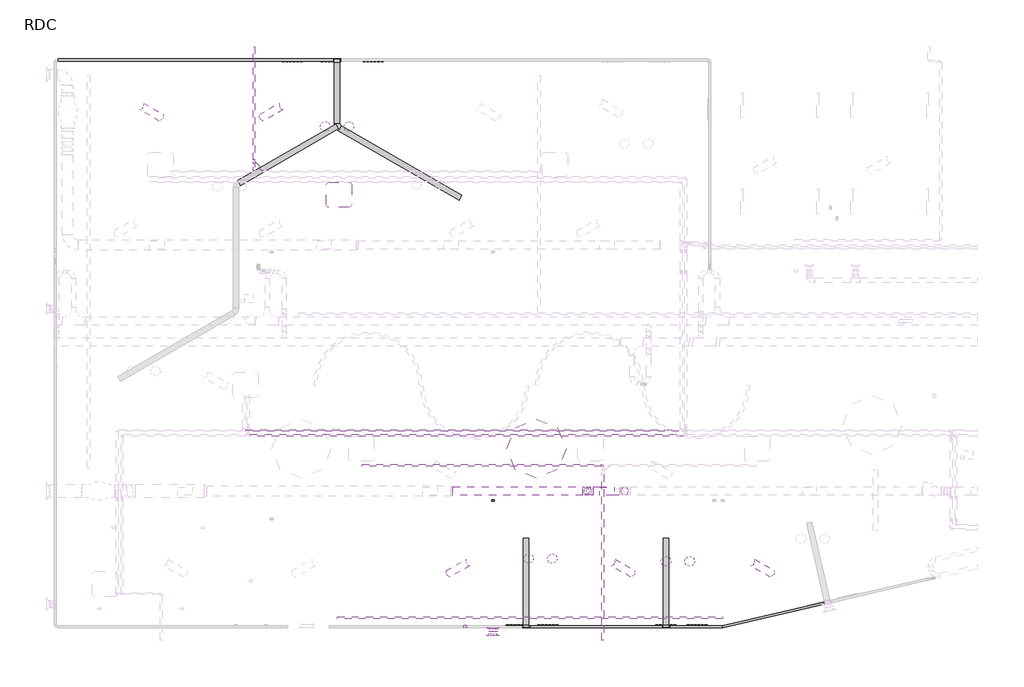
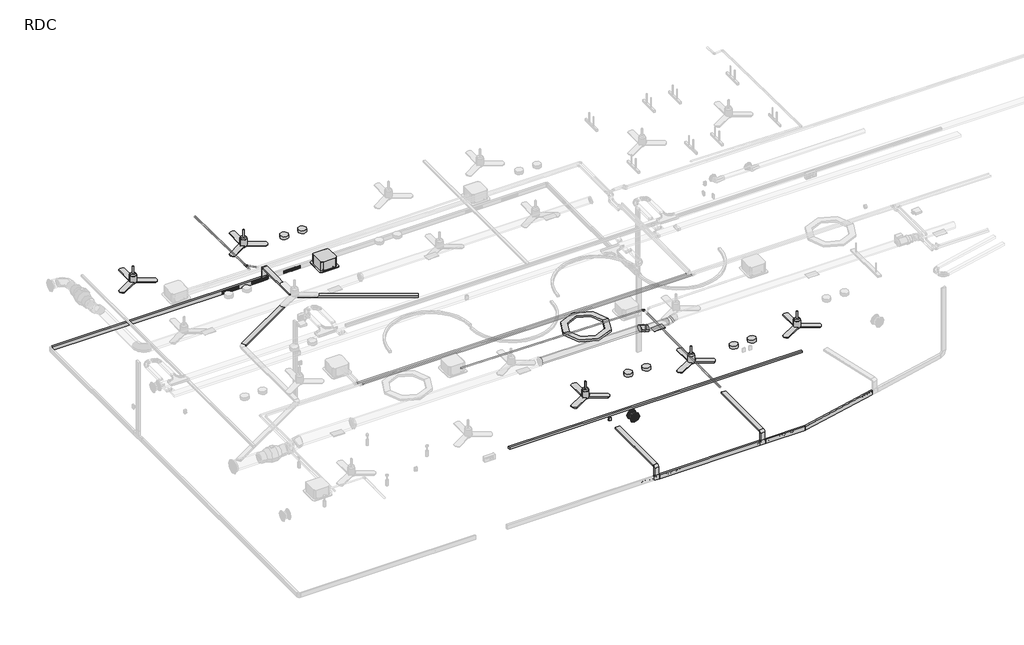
# One storey, part 4 of 15: 50 proxies, 17 duct segments, 10 duct fittings, 8 light fixtures, 7 pipe segments, 3 air terminals, 2 pipe fittings.
"""IFC4 building model written with IfcOpenShell, lengths in millimetres."""

from ifc_helpers import new_model, si_unit, point, frame, frame_2d, origin, place, context, project, spatial, polyline, circle_curve, trimmed, segment, composite_curve, outline, extrude, transform, mapped, element, save
from components import air_terminal_8fbfe4fd, air_terminal_300x150_ce1732d7, electrical_fixtures_f93b5bb2, electrical_fixtures_7208e772, security_devices_b28b6cb9, electrical_fixtures_3a4acf06, mechanical_equipment_4a9d14a3, cassette_600x600_07ba985d, coude_circulaire_1_d_01b5a2fb, coude_rectangulaire_rayon_1_w_45743452, coude_rectangulaire_rayon_1_w_07da5d97, coude_rectangulaire_rayon_1_w_6ce379fa, coude_rectangulaire_rayon_1_w_36dd7708, coude_rectangulaire_rayon_1_w_c2cb62bf, standard_70f4f62f, light_fixture_2e635b03, ai_luminaire_concept_s_angle_915ad789, ai_luminaire_spot_downlight_a3_0014797d, standard_4aeb689a, standard_fa75ec68

model = new_model("IFC4")

# Units and contexts
model_context = context("Model", 3, world=origin())
ifc_project = project(units=[si_unit("LENGTHUNIT", "METRE", prefix="MILLI")], contexts=[model_context])

# Site, building, storey
site = spatial("IfcSite", under=ifc_project)
building = spatial("IfcBuilding", under=site)
storey = spatial("IfcBuildingStorey", under=building, Name="RDC", Elevation=0.0)

# Air terminals
placement = place(None, origin())
air_terminal_shape = air_terminal_8fbfe4fd(model_context)
element("IfcAirTerminal", 1, ObjectType="AI_Bouche aération_Circulaire Soufflage : ø200 mm", at=placement, inside=storey, context=model_context, shape_type="MappedRepresentation", body=[
    mapped(air_terminal_shape, transform((16773.1551019, 939.7998736, 2675.0), x_axis=(1.0, 0.0, 0.0), y_axis=(0.0, 0.0, -1.0), z_axis=(0.0, 1.0, 0.0))),
])
element("IfcAirTerminal", 2, ObjectType="AI_Bouche aération_Circulaire Extraction : ø200 mm", at=placement, inside=storey, context=model_context, shape_type="MappedRepresentation", body=[
    mapped(air_terminal_shape, transform((16773.1551016, 1119.7998718, 2675.0), x_axis=(0.0, 0.0, 1.0), y_axis=(-1.0, 0.0, 0.0), z_axis=(0.0, -1.0, 0.0))),
])
air_terminal_300x150_shape = air_terminal_300x150_ce1732d7(model_context)
element("IfcAirTerminal", 3, ObjectType="AI_Bouche aération_Grille de soufflage rectangulaire sur gaine : 300x150", at=placement, inside=storey, context=model_context, shape_type="MappedRepresentation", body=[
    mapped(air_terminal_300x150_shape, transform((19474.9639686, 4361.9215834, 2620.0), x_axis=(0.0, 1.0, 0.0), y_axis=(-1.0, 0.0, 0.0), z_axis=(0.0, 0.0, 1.0))),
])

# Proxies
electrical_fixtures_shape = electrical_fixtures_f93b5bb2(model_context)
element("IfcBuildingElementProxy", 4, Name="AI_Instal elec_Prise RJ45 : RJ 45 Murale", ObjectType="AI_Instal elec_Prise RJ45 : RJ 45 Murale", at=placement, inside=storey, context=model_context, shape_type="MappedRepresentation", body=[
    mapped(electrical_fixtures_shape, transform((14055.489218, 14569.3027103, 300.0), x_axis=(-1.0, 0.0, 0.0), y_axis=(0.0, -1.0, 0.0), z_axis=(0.0, 0.0, 1.0))),
])
element("IfcBuildingElementProxy", 5, Name="AI_Instal elec_Prise RJ45 : RJ 45 Murale", ObjectType="AI_Instal elec_Prise RJ45 : RJ 45 Murale", at=placement, inside=storey, context=model_context, shape_type="MappedRepresentation", body=[
    mapped(electrical_fixtures_shape, transform((14140.489218, 14569.3027103, 300.0), x_axis=(-1.0, 0.0, 0.0), y_axis=(0.0, -1.0, 0.0), z_axis=(0.0, 0.0, 1.0))),
])
element("IfcBuildingElementProxy", 6, Name="AI_Instal elec_Prise RJ45 : RJ 45 Murale", ObjectType="AI_Instal elec_Prise RJ45 : RJ 45 Murale", at=placement, inside=storey, context=model_context, shape_type="MappedRepresentation", body=[
    mapped(electrical_fixtures_shape, transform((12135.489218, 14569.3027103, 300.0), x_axis=(-1.0, 0.0, 0.0), y_axis=(0.0, -1.0, 0.0), z_axis=(0.0, 0.0, 1.0))),
])
element("IfcBuildingElementProxy", 7, Name="AI_Instal elec_Prise RJ45 : RJ 45 Murale", ObjectType="AI_Instal elec_Prise RJ45 : RJ 45 Murale", at=placement, inside=storey, context=model_context, shape_type="MappedRepresentation", body=[
    mapped(electrical_fixtures_shape, transform((12220.489218, 14569.3027103, 300.0), x_axis=(-1.0, 0.0, 0.0), y_axis=(0.0, -1.0, 0.0), z_axis=(0.0, 0.0, 1.0))),
])
element("IfcBuildingElementProxy", 8, Name="AI_Instal elec_Prise RJ45 : RJ 45 Murale", ObjectType="AI_Instal elec_Prise RJ45 : RJ 45 Murale", at=placement, inside=storey, context=model_context, shape_type="MappedRepresentation", body=[
    mapped(electrical_fixtures_shape, transform((13055.489218, 14569.3027103, 300.0), x_axis=(-1.0, 0.0, 0.0), y_axis=(0.0, -1.0, 0.0), z_axis=(0.0, 0.0, 1.0))),
])
element("IfcBuildingElementProxy", 9, Name="AI_Instal elec_Prise RJ45 : RJ 45 Murale", ObjectType="AI_Instal elec_Prise RJ45 : RJ 45 Murale", at=placement, inside=storey, context=model_context, shape_type="MappedRepresentation", body=[
    mapped(electrical_fixtures_shape, transform((13140.489218, 14569.3027103, 300.0), x_axis=(-1.0, 0.0, 0.0), y_axis=(0.0, -1.0, 0.0), z_axis=(0.0, 0.0, 1.0))),
])
element("IfcBuildingElementProxy", 10, Name="AI_Instal elec_Prise RJ45 : RJ 45 Murale", ObjectType="AI_Instal elec_Prise RJ45 : RJ 45 Murale", at=placement, inside=storey, context=model_context, shape_type="MappedRepresentation", body=[
    mapped(electrical_fixtures_shape, transform((17947.4639686, 1170.0660246, 300.0), x_axis=(1.0, 0.0, 0.0), y_axis=(0.0, 1.0, 0.0), z_axis=(0.0, 0.0, 1.0))),
])
element("IfcBuildingElementProxy", 11, Name="AI_Instal elec_Prise RJ45 : RJ 45 Murale", ObjectType="AI_Instal elec_Prise RJ45 : RJ 45 Murale", at=placement, inside=storey, context=model_context, shape_type="MappedRepresentation", body=[
    mapped(electrical_fixtures_shape, transform((17862.4639686, 1170.0660246, 300.0), x_axis=(1.0, 0.0, 0.0), y_axis=(0.0, 1.0, 0.0), z_axis=(0.0, 0.0, 1.0))),
])
element("IfcBuildingElementProxy", 12, Name="AI_Instal elec_Prise RJ45 : RJ 45 Murale", ObjectType="AI_Instal elec_Prise RJ45 : RJ 45 Murale", at=placement, inside=storey, context=model_context, shape_type="MappedRepresentation", body=[
    mapped(electrical_fixtures_shape, transform((17207.4639686, 1170.0660246, 300.0), x_axis=(1.0, 0.0, 0.0), y_axis=(0.0, 1.0, 0.0), z_axis=(0.0, 0.0, 1.0))),
])
element("IfcBuildingElementProxy", 13, Name="AI_Instal elec_Prise RJ45 : RJ 45 Murale", ObjectType="AI_Instal elec_Prise RJ45 : RJ 45 Murale", at=placement, inside=storey, context=model_context, shape_type="MappedRepresentation", body=[
    mapped(electrical_fixtures_shape, transform((17122.4639686, 1170.0660246, 300.0), x_axis=(1.0, 0.0, 0.0), y_axis=(0.0, 1.0, 0.0), z_axis=(0.0, 0.0, 1.0))),
])
element("IfcBuildingElementProxy", 14, Name="AI_Instal elec_Prise RJ45 : RJ 45 Murale", ObjectType="AI_Instal elec_Prise RJ45 : RJ 45 Murale", at=placement, inside=storey, context=model_context, shape_type="MappedRepresentation", body=[
    mapped(electrical_fixtures_shape, transform((21487.4639686, 1170.0660246, 300.0), x_axis=(1.0, 0.0, 0.0), y_axis=(0.0, 1.0, 0.0), z_axis=(0.0, 0.0, 1.0))),
])
element("IfcBuildingElementProxy", 15, Name="AI_Instal elec_Prise RJ45 : RJ 45 Murale", ObjectType="AI_Instal elec_Prise RJ45 : RJ 45 Murale", at=placement, inside=storey, context=model_context, shape_type="MappedRepresentation", body=[
    mapped(electrical_fixtures_shape, transform((21402.4639686, 1170.0660246, 300.0), x_axis=(1.0, 0.0, 0.0), y_axis=(0.0, 1.0, 0.0), z_axis=(0.0, 0.0, 1.0))),
])
element("IfcBuildingElementProxy", 16, Name="AI_Instal elec_Prise RJ45 : RJ 45 Murale", ObjectType="AI_Instal elec_Prise RJ45 : RJ 45 Murale", at=placement, inside=storey, context=model_context, shape_type="MappedRepresentation", body=[
    mapped(electrical_fixtures_shape, transform((20747.4639686, 1170.0660246, 300.0), x_axis=(1.0, 0.0, 0.0), y_axis=(0.0, 1.0, 0.0), z_axis=(0.0, 0.0, 1.0))),
])
element("IfcBuildingElementProxy", 17, Name="AI_Instal elec_Prise RJ45 : RJ 45 Murale", ObjectType="AI_Instal elec_Prise RJ45 : RJ 45 Murale", at=placement, inside=storey, context=model_context, shape_type="MappedRepresentation", body=[
    mapped(electrical_fixtures_shape, transform((20662.4639686, 1170.0660246, 300.0), x_axis=(1.0, 0.0, 0.0), y_axis=(0.0, 1.0, 0.0), z_axis=(0.0, 0.0, 1.0))),
])
electrical_fixtures_2_shape = electrical_fixtures_7208e772(model_context)
element("IfcBuildingElementProxy", 18, Name="AI_Instal elec_PC 16A +T à 0,30m : PC 16A +T à 0,30m", ObjectType="AI_Instal elec_PC 16A +T à 0,30m : PC 16A +T à 0,30m", at=placement, inside=storey, context=model_context, shape_type="MappedRepresentation", body=[
    mapped(electrical_fixtures_2_shape, transform((13715.489218, 14569.3027103, 300.0), x_axis=(-1.0, 0.0, 0.0), y_axis=(0.0, -1.0, 0.0), z_axis=(0.0, 0.0, 1.0))),
])
element("IfcBuildingElementProxy", 19, Name="AI_Instal elec_PC 16A +T à 0,30m : PC 16A +T à 0,30m", ObjectType="AI_Instal elec_PC 16A +T à 0,30m : PC 16A +T à 0,30m", at=placement, inside=storey, context=model_context, shape_type="MappedRepresentation", body=[
    mapped(electrical_fixtures_2_shape, transform((13800.489218, 14569.3027103, 300.0), x_axis=(-1.0, 0.0, 0.0), y_axis=(0.0, -1.0, 0.0), z_axis=(0.0, 0.0, 1.0))),
])
element("IfcBuildingElementProxy", 20, Name="AI_Instal elec_PC 16A +T à 0,30m : PC 16A +T à 0,30m", ObjectType="AI_Instal elec_PC 16A +T à 0,30m : PC 16A +T à 0,30m", at=placement, inside=storey, context=model_context, shape_type="MappedRepresentation", body=[
    mapped(electrical_fixtures_2_shape, transform((11795.489218, 14569.3027103, 300.0), x_axis=(-1.0, 0.0, 0.0), y_axis=(0.0, -1.0, 0.0), z_axis=(0.0, 0.0, 1.0))),
])
element("IfcBuildingElementProxy", 21, Name="AI_Instal elec_PC 16A +T à 0,30m : PC 16A +T à 0,30m", ObjectType="AI_Instal elec_PC 16A +T à 0,30m : PC 16A +T à 0,30m", at=placement, inside=storey, context=model_context, shape_type="MappedRepresentation", body=[
    mapped(electrical_fixtures_2_shape, transform((11880.489218, 14569.3027103, 300.0), x_axis=(-1.0, 0.0, 0.0), y_axis=(0.0, -1.0, 0.0), z_axis=(0.0, 0.0, 1.0))),
])
element("IfcBuildingElementProxy", 22, Name="AI_Instal elec_PC 16A +T à 0,30m : PC 16A +T à 0,30m", ObjectType="AI_Instal elec_PC 16A +T à 0,30m : PC 16A +T à 0,30m", at=placement, inside=storey, context=model_context, shape_type="MappedRepresentation", body=[
    mapped(electrical_fixtures_2_shape, transform((12715.489218, 14569.3027103, 300.0), x_axis=(-1.0, 0.0, 0.0), y_axis=(0.0, -1.0, 0.0), z_axis=(0.0, 0.0, 1.0))),
])
element("IfcBuildingElementProxy", 23, Name="AI_Instal elec_PC 16A +T à 0,30m : PC 16A +T à 0,30m", ObjectType="AI_Instal elec_PC 16A +T à 0,30m : PC 16A +T à 0,30m", at=placement, inside=storey, context=model_context, shape_type="MappedRepresentation", body=[
    mapped(electrical_fixtures_2_shape, transform((12800.489218, 14569.3027103, 300.0), x_axis=(-1.0, 0.0, 0.0), y_axis=(0.0, -1.0, 0.0), z_axis=(0.0, 0.0, 1.0))),
])
element("IfcBuildingElementProxy", 24, Name="AI_Instal elec_PC 16A +T à 0,30m : PC 16A +T à 0,30m", ObjectType="AI_Instal elec_PC 16A +T à 0,30m : PC 16A +T à 0,30m", at=placement, inside=storey, context=model_context, shape_type="MappedRepresentation", body=[
    mapped(electrical_fixtures_2_shape, transform((18287.4639686, 1170.0660246, 300.0), x_axis=(1.0, 0.0, 0.0), y_axis=(0.0, 1.0, 0.0), z_axis=(0.0, 0.0, 1.0))),
])
element("IfcBuildingElementProxy", 25, Name="AI_Instal elec_PC 16A +T à 0,30m : PC 16A +T à 0,30m", ObjectType="AI_Instal elec_PC 16A +T à 0,30m : PC 16A +T à 0,30m", at=placement, inside=storey, context=model_context, shape_type="MappedRepresentation", body=[
    mapped(electrical_fixtures_2_shape, transform((18202.4639686, 1170.0660246, 300.0), x_axis=(1.0, 0.0, 0.0), y_axis=(0.0, 1.0, 0.0), z_axis=(0.0, 0.0, 1.0))),
])
element("IfcBuildingElementProxy", 26, Name="AI_Instal elec_PC 16A +T à 0,30m : PC 16A +T à 0,30m", ObjectType="AI_Instal elec_PC 16A +T à 0,30m : PC 16A +T à 0,30m", at=placement, inside=storey, context=model_context, shape_type="MappedRepresentation", body=[
    mapped(electrical_fixtures_2_shape, transform((17547.4639686, 1170.0660246, 300.0), x_axis=(1.0, 0.0, 0.0), y_axis=(0.0, 1.0, 0.0), z_axis=(0.0, 0.0, 1.0))),
])
element("IfcBuildingElementProxy", 27, Name="AI_Instal elec_PC 16A +T à 0,30m : PC 16A +T à 0,30m", ObjectType="AI_Instal elec_PC 16A +T à 0,30m : PC 16A +T à 0,30m", at=placement, inside=storey, context=model_context, shape_type="MappedRepresentation", body=[
    mapped(electrical_fixtures_2_shape, transform((17462.4639686, 1170.0660246, 300.0), x_axis=(1.0, 0.0, 0.0), y_axis=(0.0, 1.0, 0.0), z_axis=(0.0, 0.0, 1.0))),
])
element("IfcBuildingElementProxy", 28, Name="AI_Instal elec_PC 16A +T à 0,30m : PC 16A +T à 0,30m", ObjectType="AI_Instal elec_PC 16A +T à 0,30m : PC 16A +T à 0,30m", at=placement, inside=storey, context=model_context, shape_type="MappedRepresentation", body=[
    mapped(electrical_fixtures_2_shape, transform((21827.4639686, 1170.0660246, 300.0), x_axis=(1.0, 0.0, 0.0), y_axis=(0.0, 1.0, 0.0), z_axis=(0.0, 0.0, 1.0))),
])
element("IfcBuildingElementProxy", 29, Name="AI_Instal elec_PC 16A +T à 0,30m : PC 16A +T à 0,30m", ObjectType="AI_Instal elec_PC 16A +T à 0,30m : PC 16A +T à 0,30m", at=placement, inside=storey, context=model_context, shape_type="MappedRepresentation", body=[
    mapped(electrical_fixtures_2_shape, transform((21742.4639686, 1170.0660246, 300.0), x_axis=(1.0, 0.0, 0.0), y_axis=(0.0, 1.0, 0.0), z_axis=(0.0, 0.0, 1.0))),
])
element("IfcBuildingElementProxy", 30, Name="AI_Instal elec_PC 16A +T à 0,30m : PC 16A +T à 0,30m", ObjectType="AI_Instal elec_PC 16A +T à 0,30m : PC 16A +T à 0,30m", at=placement, inside=storey, context=model_context, shape_type="MappedRepresentation", body=[
    mapped(electrical_fixtures_2_shape, transform((21087.4639686, 1170.0660246, 300.0), x_axis=(1.0, 0.0, 0.0), y_axis=(0.0, 1.0, 0.0), z_axis=(0.0, 0.0, 1.0))),
])
element("IfcBuildingElementProxy", 31, Name="AI_Instal elec_PC 16A +T à 0,30m : PC 16A +T à 0,30m", ObjectType="AI_Instal elec_PC 16A +T à 0,30m : PC 16A +T à 0,30m", at=placement, inside=storey, context=model_context, shape_type="MappedRepresentation", body=[
    mapped(electrical_fixtures_2_shape, transform((21002.4639686, 1170.0660246, 300.0), x_axis=(1.0, 0.0, 0.0), y_axis=(0.0, 1.0, 0.0), z_axis=(0.0, 0.0, 1.0))),
])
element("IfcBuildingElementProxy", 32, Name="AI_Instal elec_Prise de courant 2P+T 16A ondulée : AI_Instal elec_Prise de courant 2P+T 16A ondulée", ObjectType="AI_Instal elec_Prise de courant 2P+T 16A ondulée : AI_Instal elec_Prise de courant 2P+T 16A ondulée", at=placement, inside=storey, context=model_context, shape_type="MappedRepresentation", body=[
    mapped(electrical_fixtures_2_shape, transform((13885.489218, 14569.3027103, 300.0), x_axis=(-1.0, 0.0, 0.0), y_axis=(0.0, -1.0, 0.0), z_axis=(0.0, 0.0, 1.0))),
])
element("IfcBuildingElementProxy", 33, Name="AI_Instal elec_Prise de courant 2P+T 16A ondulée : AI_Instal elec_Prise de courant 2P+T 16A ondulée", ObjectType="AI_Instal elec_Prise de courant 2P+T 16A ondulée : AI_Instal elec_Prise de courant 2P+T 16A ondulée", at=placement, inside=storey, context=model_context, shape_type="MappedRepresentation", body=[
    mapped(electrical_fixtures_2_shape, transform((13970.489218, 14569.3027103, 300.0), x_axis=(-1.0, 0.0, 0.0), y_axis=(0.0, -1.0, 0.0), z_axis=(0.0, 0.0, 1.0))),
])
element("IfcBuildingElementProxy", 34, Name="AI_Instal elec_Prise de courant 2P+T 16A ondulée : AI_Instal elec_Prise de courant 2P+T 16A ondulée", ObjectType="AI_Instal elec_Prise de courant 2P+T 16A ondulée : AI_Instal elec_Prise de courant 2P+T 16A ondulée", at=placement, inside=storey, context=model_context, shape_type="MappedRepresentation", body=[
    mapped(electrical_fixtures_2_shape, transform((11965.489218, 14569.3027103, 300.0), x_axis=(-1.0, 0.0, 0.0), y_axis=(0.0, -1.0, 0.0), z_axis=(0.0, 0.0, 1.0))),
])
element("IfcBuildingElementProxy", 35, Name="AI_Instal elec_Prise de courant 2P+T 16A ondulée : AI_Instal elec_Prise de courant 2P+T 16A ondulée", ObjectType="AI_Instal elec_Prise de courant 2P+T 16A ondulée : AI_Instal elec_Prise de courant 2P+T 16A ondulée", at=placement, inside=storey, context=model_context, shape_type="MappedRepresentation", body=[
    mapped(electrical_fixtures_2_shape, transform((12050.489218, 14569.3027103, 300.0), x_axis=(-1.0, 0.0, 0.0), y_axis=(0.0, -1.0, 0.0), z_axis=(0.0, 0.0, 1.0))),
])
element("IfcBuildingElementProxy", 36, Name="AI_Instal elec_Prise de courant 2P+T 16A ondulée : AI_Instal elec_Prise de courant 2P+T 16A ondulée", ObjectType="AI_Instal elec_Prise de courant 2P+T 16A ondulée : AI_Instal elec_Prise de courant 2P+T 16A ondulée", at=placement, inside=storey, context=model_context, shape_type="MappedRepresentation", body=[
    mapped(electrical_fixtures_2_shape, transform((12885.489218, 14569.3027103, 300.0), x_axis=(-1.0, 0.0, 0.0), y_axis=(0.0, -1.0, 0.0), z_axis=(0.0, 0.0, 1.0))),
])
element("IfcBuildingElementProxy", 37, Name="AI_Instal elec_Prise de courant 2P+T 16A ondulée : AI_Instal elec_Prise de courant 2P+T 16A ondulée", ObjectType="AI_Instal elec_Prise de courant 2P+T 16A ondulée : AI_Instal elec_Prise de courant 2P+T 16A ondulée", at=placement, inside=storey, context=model_context, shape_type="MappedRepresentation", body=[
    mapped(electrical_fixtures_2_shape, transform((12970.489218, 14569.3027103, 300.0), x_axis=(-1.0, 0.0, 0.0), y_axis=(0.0, -1.0, 0.0), z_axis=(0.0, 0.0, 1.0))),
])
element("IfcBuildingElementProxy", 38, Name="AI_Instal elec_Prise de courant 2P+T 16A ondulée : AI_Instal elec_Prise de courant 2P+T 16A ondulée", ObjectType="AI_Instal elec_Prise de courant 2P+T 16A ondulée : AI_Instal elec_Prise de courant 2P+T 16A ondulée", at=placement, inside=storey, context=model_context, shape_type="MappedRepresentation", body=[
    mapped(electrical_fixtures_2_shape, transform((18117.4639686, 1170.0660246, 300.0), x_axis=(1.0, 0.0, 0.0), y_axis=(0.0, 1.0, 0.0), z_axis=(0.0, 0.0, 1.0))),
])
element("IfcBuildingElementProxy", 39, Name="AI_Instal elec_Prise de courant 2P+T 16A ondulée : AI_Instal elec_Prise de courant 2P+T 16A ondulée", ObjectType="AI_Instal elec_Prise de courant 2P+T 16A ondulée : AI_Instal elec_Prise de courant 2P+T 16A ondulée", at=placement, inside=storey, context=model_context, shape_type="MappedRepresentation", body=[
    mapped(electrical_fixtures_2_shape, transform((18032.4639686, 1170.0660246, 300.0), x_axis=(1.0, 0.0, 0.0), y_axis=(0.0, 1.0, 0.0), z_axis=(0.0, 0.0, 1.0))),
])
element("IfcBuildingElementProxy", 40, Name="AI_Instal elec_Prise de courant 2P+T 16A ondulée : AI_Instal elec_Prise de courant 2P+T 16A ondulée", ObjectType="AI_Instal elec_Prise de courant 2P+T 16A ondulée : AI_Instal elec_Prise de courant 2P+T 16A ondulée", at=placement, inside=storey, context=model_context, shape_type="MappedRepresentation", body=[
    mapped(electrical_fixtures_2_shape, transform((17377.4639686, 1170.0660246, 300.0), x_axis=(1.0, 0.0, 0.0), y_axis=(0.0, 1.0, 0.0), z_axis=(0.0, 0.0, 1.0))),
])
element("IfcBuildingElementProxy", 41, Name="AI_Instal elec_Prise de courant 2P+T 16A ondulée : AI_Instal elec_Prise de courant 2P+T 16A ondulée", ObjectType="AI_Instal elec_Prise de courant 2P+T 16A ondulée : AI_Instal elec_Prise de courant 2P+T 16A ondulée", at=placement, inside=storey, context=model_context, shape_type="MappedRepresentation", body=[
    mapped(electrical_fixtures_2_shape, transform((17292.4639686, 1170.0660246, 300.0), x_axis=(1.0, 0.0, 0.0), y_axis=(0.0, 1.0, 0.0), z_axis=(0.0, 0.0, 1.0))),
])
element("IfcBuildingElementProxy", 42, Name="AI_Instal elec_Prise de courant 2P+T 16A ondulée : AI_Instal elec_Prise de courant 2P+T 16A ondulée", ObjectType="AI_Instal elec_Prise de courant 2P+T 16A ondulée : AI_Instal elec_Prise de courant 2P+T 16A ondulée", at=placement, inside=storey, context=model_context, shape_type="MappedRepresentation", body=[
    mapped(electrical_fixtures_2_shape, transform((21657.4639686, 1170.0660246, 300.0), x_axis=(1.0, 0.0, 0.0), y_axis=(0.0, 1.0, 0.0), z_axis=(0.0, 0.0, 1.0))),
])
element("IfcBuildingElementProxy", 43, Name="AI_Instal elec_Prise de courant 2P+T 16A ondulée : AI_Instal elec_Prise de courant 2P+T 16A ondulée", ObjectType="AI_Instal elec_Prise de courant 2P+T 16A ondulée : AI_Instal elec_Prise de courant 2P+T 16A ondulée", at=placement, inside=storey, context=model_context, shape_type="MappedRepresentation", body=[
    mapped(electrical_fixtures_2_shape, transform((21572.4639686, 1170.0660246, 300.0), x_axis=(1.0, 0.0, 0.0), y_axis=(0.0, 1.0, 0.0), z_axis=(0.0, 0.0, 1.0))),
])
element("IfcBuildingElementProxy", 44, Name="AI_Instal elec_Prise de courant 2P+T 16A ondulée : AI_Instal elec_Prise de courant 2P+T 16A ondulée", ObjectType="AI_Instal elec_Prise de courant 2P+T 16A ondulée : AI_Instal elec_Prise de courant 2P+T 16A ondulée", at=placement, inside=storey, context=model_context, shape_type="MappedRepresentation", body=[
    mapped(electrical_fixtures_2_shape, transform((20917.4639686, 1170.0660246, 300.0), x_axis=(1.0, 0.0, 0.0), y_axis=(0.0, 1.0, 0.0), z_axis=(0.0, 0.0, 1.0))),
])
element("IfcBuildingElementProxy", 45, Name="AI_Instal elec_Prise de courant 2P+T 16A ondulée : AI_Instal elec_Prise de courant 2P+T 16A ondulée", ObjectType="AI_Instal elec_Prise de courant 2P+T 16A ondulée : AI_Instal elec_Prise de courant 2P+T 16A ondulée", at=placement, inside=storey, context=model_context, shape_type="MappedRepresentation", body=[
    mapped(electrical_fixtures_2_shape, transform((20832.4639686, 1170.0660246, 300.0), x_axis=(1.0, 0.0, 0.0), y_axis=(0.0, 1.0, 0.0), z_axis=(0.0, 0.0, 1.0))),
])
security_devices_shape = security_devices_b28b6cb9(model_context)
element("IfcBuildingElementProxy", 46, Name="AI_Disp secu_Détecteur volumétrique : Presence Detector - 70 x 100 x 70", ObjectType="AI_Disp secu_Détecteur volumétrique : Presence Detector - 70 x 100 x 70", at=placement, inside=storey, context=model_context, shape_type="MappedRepresentation", body=[
    mapped(security_devices_shape, transform((16109.9864137, 1120.1533804, 2685.7684954), x_axis=(-0.9999999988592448, -4.776515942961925e-05, 0.0), y_axis=(4.776515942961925e-05, -0.9999999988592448, 0.0), z_axis=(0.0, 0.0, 1.0))),
])
electrical_fixtures_3_shape = electrical_fixtures_3a4acf06(model_context)
element("IfcBuildingElementProxy", 47, Name="AI_Instal elec_Brasseur d'air : AI_Instal elec_Brasseur d'air", ObjectType="AI_Instal elec_Brasseur d'air : AI_Instal elec_Brasseur d'air", at=placement, inside=storey, context=model_context, shape_type="MappedRepresentation", body=[
    mapped(electrical_fixtures_3_shape, transform((11815.489218, 13534.6884314, 2500.0), x_axis=(1.0, 0.0, 0.0), y_axis=(0.0, 1.0, 0.0), z_axis=(0.0, 0.0, 1.0))),
])
element("IfcBuildingElementProxy", 48, Name="AI_Instal elec_Brasseur d'air : AI_Instal elec_Brasseur d'air", ObjectType="AI_Instal elec_Brasseur d'air : AI_Instal elec_Brasseur d'air", at=placement, inside=storey, context=model_context, shape_type="MappedRepresentation", body=[
    mapped(electrical_fixtures_3_shape, transform((8363.1634071, 13534.6884314, 2500.0), x_axis=(1.0, 0.0, 0.0), y_axis=(0.0, 1.0, 0.0), z_axis=(0.0, 0.0, 1.0))),
])
element("IfcBuildingElementProxy", 49, Name="AI_Instal elec_Brasseur d'air : AI_Instal elec_Brasseur d'air", ObjectType="AI_Instal elec_Brasseur d'air : AI_Instal elec_Brasseur d'air", at=placement, inside=storey, context=model_context, shape_type="MappedRepresentation", body=[
    mapped(electrical_fixtures_3_shape, transform((16248.3666269, 2709.4764678, 2500.0), x_axis=(1.0, 0.0, 0.0), y_axis=(0.0, 1.0, 0.0), z_axis=(0.0, 0.0, 1.0))),
])
element("IfcBuildingElementProxy", 50, Name="AI_Instal elec_Brasseur d'air : AI_Instal elec_Brasseur d'air", ObjectType="AI_Instal elec_Brasseur d'air : AI_Instal elec_Brasseur d'air", at=placement, inside=storey, context=model_context, shape_type="MappedRepresentation", body=[
    mapped(electrical_fixtures_3_shape, transform((19553.3666269, 2709.4764678, 2500.0), x_axis=(1.0, 0.0, 0.0), y_axis=(0.0, 1.0, 0.0), z_axis=(0.0, 0.0, 1.0))),
])
element("IfcBuildingElementProxy", 51, Name="AI_Instal elec_Brasseur d'air : AI_Instal elec_Brasseur d'air", ObjectType="AI_Instal elec_Brasseur d'air : AI_Instal elec_Brasseur d'air", at=placement, inside=storey, context=model_context, shape_type="MappedRepresentation", body=[
    mapped(electrical_fixtures_3_shape, transform((22863.3666269, 2709.4764678, 2500.0), x_axis=(1.0, 0.0, 0.0), y_axis=(0.0, 1.0, 0.0), z_axis=(0.0, 0.0, 1.0))),
])
mechanical_equipment_shape = mechanical_equipment_4a9d14a3(model_context)
element("IfcBuildingElementProxy", 52, Name="AI_Eqpmt genie clim_Commande murale Clim : Commande murale Clim", ObjectType="AI_Eqpmt genie clim_Commande murale Clim : Commande murale Clim", at=placement, inside=storey, context=model_context, shape_type="MappedRepresentation", body=[
    mapped(mechanical_equipment_shape, transform((16772.913704, 4119.3027165, 1130.0), x_axis=(1.0, 0.0, 0.0), y_axis=(0.0, 1.0, 0.0), z_axis=(0.0, 0.0, 1.0))),
])
cassette_600x600_shape = cassette_600x600_07ba985d(model_context)
element("IfcBuildingElementProxy", 53, Name="AI_Eqpmt genie clim_Cassette plafonnière : Cassette 600x600", ObjectType="AI_Eqpmt genie clim_Cassette plafonnière : Cassette 600x600", at=placement, inside=storey, context=model_context, shape_type="MappedRepresentation", body=[
    mapped(cassette_600x600_shape, transform((12247.9564704, 12184.3368143, 2680.0), x_axis=(1.0, 0.0, 0.0), y_axis=(0.0, 1.0, 0.0), z_axis=(0.0, 0.0, 1.0))),
])

# Duct fittings
coude_circulaire_1_d_shape = coude_circulaire_1_d_01b5a2fb(model_context)
element("IfcDuctFitting", 54, ObjectType="Coude circulaire : 1 D", at=placement, inside=storey, context=model_context, shape_type="MappedRepresentation", body=[
    mapped(coude_circulaire_1_d_shape, transform((18956.2024532, 4361.9215834, 2800.0), x_axis=(1.0, 0.0, 0.0), y_axis=(0.0, 0.0, -1.0), z_axis=(0.0, 1.0, 0.0))),
])
element("IfcDuctFitting", 55, ObjectType="Coude circulaire : 1 D", at=placement, inside=storey, context=model_context, shape_type="MappedRepresentation", body=[
    mapped(coude_circulaire_1_d_shape, transform((19094.7665179, 4361.9215834, 2720.0), x_axis=(0.8660254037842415, 0.0, -0.5000000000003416), y_axis=(0.5000000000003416, 0.0, 0.8660254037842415), z_axis=(0.0, -1.0, 0.0))),
])
coude_rectangulaire_rayon_1_w_shape = coude_rectangulaire_rayon_1_w_45743452(model_context)
element("IfcDuctFitting", 56, ObjectType="Coude rectangulaire - Rayon : 1 W", at=placement, inside=storey, context=model_context, shape_type="MappedRepresentation", body=[
    mapped(coude_rectangulaire_rayon_1_w_shape, transform((13071.4318355, 14594.3027103, 676.7942343), x_axis=(0.0, 1.0, 0.0), y_axis=(0.0, 0.0, -1.0), z_axis=(-1.0, 0.0, 0.0))),
])
coude_rectangulaire_rayon_1_w_2_shape = coude_rectangulaire_rayon_1_w_07da5d97(model_context)
element("IfcDuctFitting", 57, ObjectType="Coude rectangulaire - Rayon : 1 W", at=placement, inside=storey, context=model_context, shape_type="MappedRepresentation", body=[
    mapped(coude_rectangulaire_rayon_1_w_2_shape, transform((22214.4365848, 1145.3493945, 300.0), x_axis=(1.0, 0.0, 0.0), y_axis=(0.0, 1.0, 0.0), z_axis=(0.0, 0.0, 1.0))),
])
coude_rectangulaire_rayon_1_w_3_shape = coude_rectangulaire_rayon_1_w_6ce379fa(model_context)
element("IfcDuctFitting", 58, ObjectType="Coude rectangulaire - Rayon : 1 W", at=placement, inside=storey, context=model_context, shape_type="MappedRepresentation", body=[
    mapped(coude_rectangulaire_rayon_1_w_3_shape, transform((13071.4318355, 13014.5222681, 676.7942343), x_axis=(0.0, -1.0, 0.0), y_axis=(1.0, 0.0, 0.0), z_axis=(0.0, 0.0, 1.0))),
])
coude_rectangulaire_rayon_1_w_4_shape = coude_rectangulaire_rayon_1_w_36dd7708(model_context)
element("IfcDuctFitting", 59, ObjectType="Coude rectangulaire - Rayon : 1 W", at=placement, inside=storey, context=model_context, shape_type="MappedRepresentation", body=[
    mapped(coude_rectangulaire_rayon_1_w_4_shape, transform((17561.6306353, 1145.2367295, 676.7942343), x_axis=(0.0, -1.0, 0.0), y_axis=(0.0, 0.0, -1.0), z_axis=(1.0, 0.0, 0.0))),
])
coude_rectangulaire_rayon_1_w_5_shape = coude_rectangulaire_rayon_1_w_c2cb62bf(model_context)
element("IfcDuctFitting", 60, ObjectType="Coude rectangulaire - Rayon : 1 W", at=placement, inside=storey, context=model_context, shape_type="MappedRepresentation", body=[
    mapped(coude_rectangulaire_rayon_1_w_5_shape, transform((20874.9639686, 1145.3312212, 676.7942343), x_axis=(0.0, -1.0, 0.0), y_axis=(0.0, 0.0, -1.0), z_axis=(1.0, 0.0, 0.0))),
])
standard_shape = standard_70f4f62f(model_context)
element("IfcDuctFitting", 61, ObjectType="Té rectangulaire : Standard", at=placement, inside=storey, context=model_context, shape_type="MappedRepresentation", body=[
    mapped(standard_shape, transform((13071.4318355, 14594.3027103, 300.0), x_axis=(1.0, 0.0, 0.0), y_axis=(0.0, 0.0, -1.0), z_axis=(0.0, 1.0, 0.0))),
])
element("IfcDuctFitting", 62, ObjectType="Té rectangulaire : Standard", at=placement, inside=storey, context=model_context, shape_type="MappedRepresentation", body=[
    mapped(standard_shape, transform((17561.6306353, 1145.2227184, 300.0), x_axis=(-0.9999999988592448, -4.776515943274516e-05, 0.0), y_axis=(0.0, 0.0, -1.0000000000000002), z_axis=(4.776515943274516e-05, -0.9999999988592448, 0.0))),
])
element("IfcDuctFitting", 63, ObjectType="Té rectangulaire : Standard", at=placement, inside=storey, context=model_context, shape_type="MappedRepresentation", body=[
    mapped(standard_shape, transform((20874.9639686, 1145.3450957, 300.0), x_axis=(-0.9999999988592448, -4.776515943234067e-05, 0.0), y_axis=(0.0, 0.0, -1.0000000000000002), z_axis=(4.776515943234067e-05, -0.9999999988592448, 0.0))),
])

# Duct segments
element("IfcDuctSegment", 64, ObjectType="Circulaire - Té", at=placement, inside=storey, context=model_context, shape_type="SweptSolid", body=[
    extrude(outline(composite_curve([segment(trimmed(circle_curve(frame_2d((4361.9215834, 2720.0)), 100.0), [point((4261.9215834, 2720.0))], [point((4361.9215834, 2820.0))], False, "CARTESIAN"), True, "CONTINUOUS"), segment(trimmed(circle_curve(frame_2d((4361.9215834, 2720.0)), 100.0), [point((4361.9215834, 2820.0))], [point((4461.9215834, 2720.0))], False, "CARTESIAN"), True, "CONTINUOUS"), segment(trimmed(circle_curve(frame_2d((4361.9215834, 2720.0)), 100.0), [point((4461.9215834, 2720.0))], [point((4361.9215834, 2620.0))], False, "CARTESIAN"), True, "CONTINUOUS"), segment(trimmed(circle_curve(frame_2d((4361.9215834, 2720.0)), 100.0), [point((4361.9215834, 2620.0))], [point((4261.9215834, 2720.0))], False, "CARTESIAN"), True, "CONTINUOUS")], self_intersect=False)), frame((19148.3563563, 0.0, 0.0), z_axis=(1.0, 0.0, 0.0), x_axis=(0.0, 1.0, 0.0)), (0.0, 0.0, 1.0), 631.4101615),
])
element("IfcDuctSegment", 65, ObjectType="Circulaire - Té", at=placement, inside=storey, context=model_context, shape_type="SweptSolid", body=[
    extrude(outline(composite_curve([segment(trimmed(circle_curve(frame_2d((4361.9215834, 2800.0)), 100.0), [point((4261.9215834, 2800.0))], [point((4361.9215834, 2900.0))], False, "CARTESIAN"), True, "CONTINUOUS"), segment(trimmed(circle_curve(frame_2d((4361.9215834, 2800.0)), 100.0), [point((4361.9215834, 2900.0))], [point((4461.9215834, 2800.0))], False, "CARTESIAN"), True, "CONTINUOUS"), segment(trimmed(circle_curve(frame_2d((4361.9215834, 2800.0)), 100.0), [point((4461.9215834, 2800.0))], [point((4361.9215834, 2700.0))], False, "CARTESIAN"), True, "CONTINUOUS"), segment(trimmed(circle_curve(frame_2d((4361.9215834, 2800.0)), 100.0), [point((4361.9215834, 2700.0))], [point((4261.9215834, 2800.0))], False, "CARTESIAN"), True, "CONTINUOUS")], self_intersect=False)), frame((15819.7665179, 0.0, 0.0), z_axis=(1.0, 0.0, 0.0), x_axis=(0.0, 1.0, 0.0)), (0.0, 0.0, 1.0), 3082.8460969),
])
element("IfcDuctSegment", 66, ObjectType="Circulaire - Té", at=placement, inside=storey, context=model_context, shape_type="SweptSolid", body=[
    extrude(outline(composite_curve([segment(trimmed(circle_curve(frame_2d((0.0, -100.0)), 100.0), [point((0.0, -200.0))], [point((-99.9999999, -100.0))], False, "CARTESIAN"), True, "CONTINUOUS"), segment(trimmed(circle_curve(frame_2d((0.0, -100.0)), 100.0), [point((-99.9999999, -100.0))], [point((0.0, 0.0))], False, "CARTESIAN"), True, "CONTINUOUS"), segment(trimmed(circle_curve(frame_2d((0.0, -100.0)), 100.0), [point((0.0, 0.0))], [point((100.0, -100.0))], False, "CARTESIAN"), True, "CONTINUOUS"), segment(trimmed(circle_curve(frame_2d((0.0, -100.0)), 100.0), [point((100.0, -100.0))], [point((0.0, -200.0))], False, "CARTESIAN"), True, "CONTINUOUS")], self_intersect=False)), frame((19048.3563563, 4461.9215834, 2746.7949192), z_axis=(-0.8660254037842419, 0.0, 0.500000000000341), x_axis=(0.500000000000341, 0.0, 0.8660254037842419)), (0.0, 0.0, 1.0), 52.820323),
])
element("IfcDuctSegment", 67, ObjectType="Circulaire - Té", at=placement, inside=storey, context=model_context, shape_type="SweptSolid", body=[
    extrude(outline(composite_curve([segment(trimmed(circle_curve(frame_2d((0.0, -100.0)), 100.0), [point((0.0, 0.0))], [point((99.9999999, -100.0))], False, "CARTESIAN"), True, "CONTINUOUS"), segment(trimmed(circle_curve(frame_2d((0.0, -100.0)), 100.0), [point((99.9999999, -100.0))], [point((0.0, -200.0))], False, "CARTESIAN"), True, "CONTINUOUS"), segment(trimmed(circle_curve(frame_2d((0.0, -100.0)), 100.0), [point((0.0, -200.0))], [point((-100.0, -100.0))], False, "CARTESIAN"), True, "CONTINUOUS"), segment(trimmed(circle_curve(frame_2d((0.0, -100.0)), 100.0), [point((-100.0, -100.0))], [point((0.0, 0.0))], False, "CARTESIAN"), True, "CONTINUOUS")], self_intersect=False)), frame((19879.7665179, 4461.9215834, 2746.7949192), z_axis=(0.8660254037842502, 0.0, 0.5000000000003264), x_axis=(0.5000000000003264, 0.0, -0.8660254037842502)), (0.0, 0.0, 1.0), 52.820323),
])
element("IfcDuctSegment", 68, ObjectType="Circulaire - Té", at=placement, inside=storey, context=model_context, shape_type="SweptSolid", body=[
    extrude(outline(composite_curve([segment(trimmed(circle_curve(frame_2d((0.0, -100.0)), 100.0), [point((0.0, 0.0))], [point((100.0, -100.0))], False, "CARTESIAN"), True, "CONTINUOUS"), segment(trimmed(circle_curve(frame_2d((0.0, -100.0)), 100.0), [point((100.0, -100.0))], [point((0.0, -200.0))], False, "CARTESIAN"), True, "CONTINUOUS"), segment(trimmed(circle_curve(frame_2d((0.0, -100.0)), 100.0), [point((0.0, -200.0))], [point((-100.0, -100.0))], False, "CARTESIAN"), True, "CONTINUOUS"), segment(trimmed(circle_curve(frame_2d((0.0, -100.0)), 100.0), [point((-100.0, -100.0))], [point((0.0, 0.0))], False, "CARTESIAN"), True, "CONTINUOUS")], self_intersect=False)), frame((16673.1551019, 1026.3998688, 2675.0), z_axis=(-4.820034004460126e-08, 0.9999999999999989, 0.0), x_axis=(0.0, 0.0, -1.0)), (0.0, 0.0, 1.0), 6.7999982),
])
element("IfcDuctSegment", 69, ObjectType="Goulotte", at=placement, inside=storey, context=model_context, shape_type="SweptSolid", body=[
    extrude(outline(polyline([(12981.4318355, 14619.3027103), (12981.4318355, 14569.3027103), (6438.0055248, 14569.3027103), (6438.0055248, 14619.3027103), (12981.4318355, 14619.3027103)])), frame((0.0, 0.0, 235.0), z_axis=(0.0, 0.0, 1.0), x_axis=(1.0, 0.0, 0.0)), (0.0, 0.0, 1.0), 130.0),
])
element("IfcDuctSegment", 70, ObjectType="Goulotte", at=placement, inside=storey, context=model_context, shape_type="SweptSolid", body=[
    extrude(outline(polyline([(24620.2284176, 1726.4278059), (24631.4759704, 1677.7093027), (22225.6111334, 1122.2716397), (22214.3635807, 1170.9901429), (24620.2284176, 1726.4278059)])), frame((0.0, 0.0, 235.0), z_axis=(0.0, 0.0, 1.0), x_axis=(1.0, 0.0, 0.0)), (0.0, 0.0, 1.0), 130.0),
])
element("IfcDuctSegment", 71, ObjectType="Goulotte", at=placement, inside=storey, context=model_context, shape_type="SweptSolid", body=[
    extrude(outline(polyline([(13006.4318355, 14544.3027103), (13136.4318355, 14544.3027103), (13136.4318355, 13089.5778031), (13006.4318355, 13089.5778031), (13006.4318355, 14544.3027103)])), frame((0.0, 0.0, 651.7942343), z_axis=(0.0, 0.0, 1.0), x_axis=(1.0, 0.0, 0.0)), (0.0, 0.0, 1.0), 50.0),
])
element("IfcDuctSegment", 72, ObjectType="Goulotte", at=placement, inside=storey, context=model_context, shape_type="SweptSolid", body=[
    extrude(outline(polyline([(13136.4318355, 14619.3027103), (13136.4318355, 14569.3027103), (13006.4318355, 14569.3027103), (13006.4318355, 14619.3027103), (13136.4318355, 14619.3027103)])), frame((0.0, 0.0, 390.0), z_axis=(0.0, 0.0, 1.0), x_axis=(1.0, 0.0, 0.0)), (0.0, 0.0, 1.0), 236.7942343),
])
element("IfcDuctSegment", 73, ObjectType="Goulotte", at=placement, inside=storey, context=model_context, shape_type="SweptSolid", body=[
    extrude(outline(polyline([(13103.9318355, 12920.7028493), (13168.9318355, 13033.2861518), (16031.0977003, 11380.8139193), (15966.0977003, 11268.2306168), (13103.9318355, 12920.7028493)])), frame((0.0, 0.0, 651.7942343), z_axis=(0.0, 0.0, 1.0), x_axis=(1.0, 0.0, 0.0)), (0.0, 0.0, 1.0), 50.0),
])
element("IfcDuctSegment", 74, ObjectType="Goulotte", at=placement, inside=storey, context=model_context, shape_type="SweptSolid", body=[
    extrude(outline(polyline([(10772.5832822, 11613.4109873), (10707.5832822, 11725.9942898), (13038.9318355, 13071.9990047), (13103.9318355, 12959.4157022), (10772.5832822, 11613.4109873)])), frame((0.0, 0.0, 651.7942343), z_axis=(0.0, 0.0, 1.0), x_axis=(1.0, 0.0, 0.0)), (0.0, 0.0, 1.0), 50.0),
])
element("IfcDuctSegment", 75, ObjectType="Goulotte", at=placement, inside=storey, context=model_context, shape_type="SweptSolid", body=[
    extrude(outline(polyline([(17626.6306353, 1195.2342869), (17496.6306353, 1195.2342869), (17496.6306353, 3245.2367295), (17626.6306353, 3245.2367295), (17626.6306353, 1195.2342869)])), frame((0.0, 0.0, 651.7942343), z_axis=(0.0, 0.0, 1.0), x_axis=(1.0, 0.0, 0.0)), (0.0, 0.0, 1.0), 50.0),
])
element("IfcDuctSegment", 76, ObjectType="Goulotte", at=placement, inside=storey, context=model_context, shape_type="SweptSolid", body=[
    extrude(outline(polyline([(65.0, -44.6419415), (65.0, -94.6419414), (-65.0, -94.6419414), (-65.0, -44.6419415), (65.0, -44.6419415)])), frame((17561.6306353, 1075.5807771, 390.0034023), z_axis=(0.0, 4.885423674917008e-05, 0.9999999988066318), x_axis=(-1.0, 0.0, 0.0)), (0.0, 0.0, 1.0), 236.7966773),
])
element("IfcDuctSegment", 77, ObjectType="Goulotte", at=placement, inside=storey, context=model_context, shape_type="SweptSolid", body=[
    extrude(outline(polyline([(20939.9639686, 1195.3336402), (20809.9639686, 1195.3336402), (20809.9639686, 3245.2367295), (20939.9639686, 3245.2367295), (20939.9639686, 1195.3336402)])), frame((0.0, 0.0, 651.7942343), z_axis=(0.0, 0.0, 1.0), x_axis=(1.0, 0.0, 0.0)), (0.0, 0.0, 1.0), 50.0),
])
element("IfcDuctSegment", 78, ObjectType="Goulotte", at=placement, inside=storey, context=model_context, shape_type="SweptSolid", body=[
    extrude(outline(polyline([(20784.9627746, 1170.3407968), (20784.9651628, 1120.3407968), (17651.631831, 1120.1911327), (17651.6294428, 1170.1911326), (20784.9627746, 1170.3407968)])), frame((0.0, 0.0, 235.0), z_axis=(0.0, 0.0, 1.0), x_axis=(1.0, 0.0, 0.0)), (0.0, 0.0, 1.0), 130.0),
])
element("IfcDuctSegment", 79, ObjectType="Goulotte", at=placement, inside=storey, context=model_context, shape_type="SweptSolid", body=[
    extrude(outline(polyline([(65.0, -44.6419414), (65.0, -94.6419414), (-65.0, -94.6419414), (-65.0, -44.6419414), (65.0, -44.6419414)])), frame((20874.9639686, 1075.7031544, 389.9966309), z_axis=(0.0, -4.837774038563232e-05, 0.9999999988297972), x_axis=(-1.0, 0.0, 0.0)), (0.0, 0.0, 1.0), 236.7918157),
])
element("IfcDuctSegment", 80, ObjectType="Goulotte", at=placement, inside=storey, context=model_context, shape_type="SweptSolid", body=[
    extrude(outline(polyline([(22208.7398043, 1170.3493945), (22208.7398043, 1120.3493945), (20964.9639685, 1120.3493945), (20964.9639685, 1170.3493945), (22208.7398043, 1170.3493945)])), frame((0.0, 0.0, 235.0), z_axis=(0.0, 0.0, 1.0), x_axis=(1.0, 0.0, 0.0)), (0.0, 0.0, 1.0), 130.0),
])

# Light fixtures
light_fixture_shape = light_fixture_2e635b03(model_context)
element("IfcLightFixture", 81, ObjectType="AI_Luminaire_CONCEPT S_Linéaire : CONCEPTION S", at=placement, inside=storey, context=model_context, shape_type="MappedRepresentation", body=[
    mapped(light_fixture_shape, transform((17651.8662687, 1355.6435618, 2733.711413), x_axis=(-0.9999999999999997, -2.7657709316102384e-08, 0.0), y_axis=(2.7657709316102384e-08, -0.9999999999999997, 0.0), z_axis=(0.0, 0.0, 1.0))),
])
ai_luminaire_concept_s_angle_shape = ai_luminaire_concept_s_angle_915ad789(model_context)
element("IfcLightFixture", 82, ObjectType="AI_Luminaire_CONCEPT S_Angle : CONCEPTION O", at=placement, inside=storey, context=model_context, shape_type="MappedRepresentation", body=[
    mapped(ai_luminaire_concept_s_angle_shape, transform((17128.474936, 5369.5203336, 2660.0), x_axis=(1.0, 0.0, 0.0), y_axis=(0.0, 1.0, 0.0), z_axis=(0.0, 0.0, 1.0))),
])
ai_luminaire_spot_downlight_a3_shape = ai_luminaire_spot_downlight_a3_0014797d(model_context)
element("IfcLightFixture", 83, ObjectType="AI_Luminaire_Spot Downlight : A3", at=placement, inside=storey, context=model_context, shape_type="MappedRepresentation", body=[
    mapped(ai_luminaire_spot_downlight_a3_shape, transform((13352.9708427, 13014.5222681, 2800.0), x_axis=(-1.0, 0.0, 0.0), y_axis=(0.0, -1.0, 0.0), z_axis=(0.0, 0.0, 1.0))),
])
element("IfcLightFixture", 84, ObjectType="AI_Luminaire_Spot Downlight : A3", at=placement, inside=storey, context=model_context, shape_type="MappedRepresentation", body=[
    mapped(ai_luminaire_spot_downlight_a3_shape, transform((18181.2672781, 2761.2592094, 2780.0), x_axis=(-1.0, 0.0, 0.0), y_axis=(0.0, -1.0, 0.0), z_axis=(0.0, 0.0, 1.0))),
])
element("IfcLightFixture", 85, ObjectType="AI_Luminaire_Spot Downlight : A3", at=placement, inside=storey, context=model_context, shape_type="MappedRepresentation", body=[
    mapped(ai_luminaire_spot_downlight_a3_shape, transform((21442.20088, 2698.7694606, 2600.0), x_axis=(-1.0, 0.0, 0.0), y_axis=(0.0, -1.0, 0.0), z_axis=(0.0, 0.0, 1.0))),
])
element("IfcLightFixture", 86, ObjectType="AI_Luminaire_Spot Downlight : A3", at=placement, inside=storey, context=model_context, shape_type="MappedRepresentation", body=[
    mapped(ai_luminaire_spot_downlight_a3_shape, transform((12789.8928284, 13014.5222681, 2800.0), x_axis=(1.0, 0.0, 0.0), y_axis=(0.0, 1.0, 0.0), z_axis=(0.0, 0.0, 1.0))),
])
element("IfcLightFixture", 87, ObjectType="AI_Luminaire_Spot Downlight : A3", at=placement, inside=storey, context=model_context, shape_type="MappedRepresentation", body=[
    mapped(ai_luminaire_spot_downlight_a3_shape, transform((17618.1892637, 2761.2592094, 2780.0), x_axis=(1.0, 0.0, 0.0), y_axis=(0.0, 1.0, 0.0), z_axis=(0.0, 0.0, 1.0))),
])
element("IfcLightFixture", 88, ObjectType="AI_Luminaire_Spot Downlight : A3", at=placement, inside=storey, context=model_context, shape_type="MappedRepresentation", body=[
    mapped(ai_luminaire_spot_downlight_a3_shape, transform((20879.1228656, 2698.7694606, 2600.0), x_axis=(1.0, 0.0, 0.0), y_axis=(0.0, 1.0, 0.0), z_axis=(0.0, 0.0, 1.0))),
])

# Pipe fittings
standard_2_shape = standard_4aeb689a(model_context)
element("IfcPipeFitting", 89, ObjectType="Té - Générique : Standard", at=placement, inside=storey, context=model_context, shape_type="MappedRepresentation", body=[
    mapped(standard_2_shape, transform((11102.195505, 12179.0752884, 2866.4950915), x_axis=(1.2098984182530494e-08, -0.9998875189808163, 0.01499831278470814), y_axis=(-0.999905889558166, 0.00020575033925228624, 0.01371749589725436), z_axis=(-0.013719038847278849, -0.014996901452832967, -0.9997934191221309))),
])
standard_3_shape = standard_fa75ec68(model_context)
element("IfcPipeFitting", 90, ObjectType="Coude - Générique1 : Standard", at=placement, inside=storey, context=model_context, shape_type="MappedRepresentation", body=[
    mapped(standard_3_shape, transform((19376.356575, 4977.4866487, 2875.4056178), x_axis=(0.0, 0.9999500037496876, 0.009999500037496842), y_axis=(-0.999950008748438, -9.998500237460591e-05, 0.009998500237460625), z_axis=(0.009999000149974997, -0.009999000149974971, 0.9999000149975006))),
])

# Pipe segments
element("IfcPipeSegment", 91, ObjectType="Acier - Té", at=placement, inside=storey, context=model_context, shape_type="SweptSolid", body=[
    extrude(outline(composite_curve([segment(trimmed(circle_curve(frame_2d((5687.9698468, 2918.2995)), 21.082), [point((5666.8878468, 2918.2995))], [point((5687.9698468, 2939.3815))], False, "CARTESIAN"), True, "CONTINUOUS"), segment(trimmed(circle_curve(frame_2d((5687.9698468, 2918.2995)), 21.082), [point((5687.9698468, 2939.3815))], [point((5709.0518468, 2918.2995))], False, "CARTESIAN"), True, "CONTINUOUS"), segment(trimmed(circle_curve(frame_2d((5687.9698468, 2918.2995)), 21.082), [point((5709.0518468, 2918.2995))], [point((5687.9698468, 2897.2175))], False, "CARTESIAN"), True, "CONTINUOUS"), segment(trimmed(circle_curve(frame_2d((5687.9698468, 2918.2995)), 21.082), [point((5687.9698468, 2897.2175))], [point((5666.8878468, 2918.2995))], False, "CARTESIAN"), True, "CONTINUOUS")], self_intersect=False)), frame((11011.0661525, 0.0, 0.0), z_axis=(1.0, 0.0, 0.0), x_axis=(0.0, 1.0, 0.0)), (0.0, 0.0, 1.0), 10289.5609811),
])
element("IfcPipeSegment", 92, ObjectType="Acier - Té", at=placement, inside=storey, context=model_context, shape_type="SweptSolid", body=[
    extrude(outline(composite_curve([segment(trimmed(circle_curve(frame_2d((0.0, -21.082)), 21.082), [point((-21.082, -21.082))], [point((0.0, 0.0))], False, "CARTESIAN"), True, "CONTINUOUS"), segment(trimmed(circle_curve(frame_2d((0.0, -21.082)), 21.082), [point((0.0, 0.0))], [point((21.0820001, -21.082))], False, "CARTESIAN"), True, "CONTINUOUS"), segment(trimmed(circle_curve(frame_2d((0.0, -21.082)), 21.082), [point((21.0820001, -21.082))], [point((0.0, -42.164))], False, "CARTESIAN"), True, "CONTINUOUS"), segment(trimmed(circle_curve(frame_2d((0.0, -21.082)), 21.082), [point((0.0, -42.164))], [point((-21.082, -21.082))], False, "CARTESIAN"), True, "CONTINUOUS")], self_intersect=False)), frame((10903.5095755, 5798.6468394, 2897.1573066), z_axis=(0.999999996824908, 7.968804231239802e-05, 0.0), x_axis=(7.968804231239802e-05, -0.999999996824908, 0.0)), (0.0, 0.0, 1.0), 10289.560884),
])
element("IfcPipeSegment", 93, ObjectType="Acier - Té", at=placement, inside=storey, context=model_context, shape_type="SweptSolid", body=[
    extrude(outline(composite_curve([segment(trimmed(circle_curve(frame_2d((0.0, 21.082)), 21.082), [point((-21.082, 21.082))], [point((0.0, 42.164))], False, "CARTESIAN"), True, "CONTINUOUS"), segment(trimmed(circle_curve(frame_2d((0.0, 21.082)), 21.082), [point((0.0, 42.164))], [point((21.082, 21.082))], False, "CARTESIAN"), True, "CONTINUOUS"), segment(trimmed(circle_curve(frame_2d((0.0, 21.082)), 21.082), [point((21.082, 21.082))], [point((0.0, 0.0))], False, "CARTESIAN"), True, "CONTINUOUS"), segment(trimmed(circle_curve(frame_2d((0.0, 21.082)), 21.082), [point((0.0, 0.0))], [point((-21.082, 21.082))], False, "CARTESIAN"), True, "CONTINUOUS")], self_intersect=False)), frame((11102.1955056, 12127.8316664, 2846.1793743), z_axis=(1.2098919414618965e-08, -0.9998875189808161, 0.01499831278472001), x_axis=(1.0, 1.2097558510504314e-08, -1.8146373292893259e-10)), (0.0, 0.0, 1.0), 148.6544011),
])
element("IfcPipeSegment", 94, ObjectType="Acier - Té", at=placement, inside=storey, context=model_context, shape_type="SweptSolid", body=[
    extrude(outline(composite_curve([segment(trimmed(circle_curve(frame_2d((0.0, 21.0819999)), 21.082), [point((21.081997, 21.0931862))], [point((0.0111863, 2.9e-06))], False, "CARTESIAN"), True, "CONTINUOUS"), segment(trimmed(circle_curve(frame_2d((0.0, 21.0819999)), 21.082), [point((0.0111863, 2.9e-06))], [point((-21.081997, 21.0708136))], False, "CARTESIAN"), True, "CONTINUOUS"), segment(trimmed(circle_curve(frame_2d((0.0, 21.0819999)), 21.082), [point((-21.081997, 21.0708136))], [point((-0.0111863, 42.163997))], False, "CARTESIAN"), True, "CONTINUOUS"), segment(trimmed(circle_curve(frame_2d((0.0, 21.0819999)), 21.082), [point((-0.0111863, 42.163997))], [point((21.081997, 21.0931862))], False, "CARTESIAN"), True, "CONTINUOUS")], self_intersect=False)), frame((11311.129605, 11970.1253686, 2887.4933602), z_axis=(-0.7071066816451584, 0.7071066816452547, 0.0005306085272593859), x_axis=(0.7071068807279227, 0.7071064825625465, 0.0005306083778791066)), (0.0, 0.0, 1.0), 244.5443365),
])
element("IfcPipeSegment", 95, ObjectType="Acier - Té", at=placement, inside=storey, context=model_context, shape_type="SweptSolid", body=[
    extrude(outline(composite_curve([segment(trimmed(circle_curve(frame_2d((0.0, 21.082)), 21.082), [point((-21.082, 21.082))], [point((0.0, 42.1640001))], False, "CARTESIAN"), True, "CONTINUOUS"), segment(trimmed(circle_curve(frame_2d((0.0, 21.082)), 21.082), [point((0.0, 42.1640001))], [point((21.082, 21.082))], False, "CARTESIAN"), True, "CONTINUOUS"), segment(trimmed(circle_curve(frame_2d((0.0, 21.082)), 21.082), [point((21.082, 21.082))], [point((0.0, 0.0))], False, "CARTESIAN"), True, "CONTINUOUS"), segment(trimmed(circle_curve(frame_2d((0.0, 21.082)), 21.082), [point((0.0, 0.0))], [point((-21.082, 21.082))], False, "CARTESIAN"), True, "CONTINUOUS")], self_intersect=False)), frame((11102.1954719, 14912.3740633, 2804.4112383), z_axis=(1.2098990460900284e-08, -0.9998875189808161, 0.01499831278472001), x_axis=(1.0, 1.209762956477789e-08, -1.8146373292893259e-10)), (0.0, 0.0, 1.0), 2682.9893272),
])
element("IfcPipeSegment", 96, ObjectType="Acier - Té", at=placement, inside=storey, context=model_context, shape_type="SweptSolid", body=[
    extrude(outline(composite_curve([segment(trimmed(circle_curve(frame_2d((1e-07, -21.082)), 21.082), [point((2.92e-05, -42.164))], [point((-21.082, -21.0820292))], False, "CARTESIAN"), True, "CONTINUOUS"), segment(trimmed(circle_curve(frame_2d((1e-07, -21.082)), 21.082), [point((-21.082, -21.0820292))], [point((-2.91e-05, 0.0))], False, "CARTESIAN"), True, "CONTINUOUS"), segment(trimmed(circle_curve(frame_2d((1e-07, -21.082)), 21.082), [point((-2.91e-05, 0.0))], [point((21.082, -21.0819707))], False, "CARTESIAN"), True, "CONTINUOUS"), segment(trimmed(circle_curve(frame_2d((1e-07, -21.082)), 21.082), [point((21.082, -21.0819707))], [point((2.92e-05, -42.164))], False, "CARTESIAN"), True, "CONTINUOUS")], self_intersect=False)), frame((19344.3581749, 4998.5686487, 2875.7256309), z_axis=(-0.9999500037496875, -1.3828160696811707e-08, 0.009999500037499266), x_axis=(0.009999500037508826, -1.382816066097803e-06, 0.9999500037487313)), (0.0, 0.0, 1.0), 5671.8656492),
])
element("IfcPipeSegment", 97, ObjectType="Acier - Té", at=placement, inside=storey, context=model_context, shape_type="SweptSolid", body=[
    extrude(outline(composite_curve([segment(trimmed(circle_curve(frame_2d((0.0, -21.082)), 21.082), [point((-21.082, -21.082))], [point((0.0, 0.0))], False, "CARTESIAN"), True, "CONTINUOUS"), segment(trimmed(circle_curve(frame_2d((0.0, -21.082)), 21.082), [point((0.0, 0.0))], [point((21.082, -21.082))], False, "CARTESIAN"), True, "CONTINUOUS"), segment(trimmed(circle_curve(frame_2d((0.0, -21.082)), 21.082), [point((21.082, -21.082))], [point((0.0, -42.1639999))], False, "CARTESIAN"), True, "CONTINUOUS"), segment(trimmed(circle_curve(frame_2d((0.0, -21.082)), 21.082), [point((0.0, -42.1639999))], [point((-21.082, -21.082))], False, "CARTESIAN"), True, "CONTINUOUS")], self_intersect=False)), frame((19376.356575, 819.0814, 2812.7385112), z_axis=(0.0, 0.9999500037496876, 0.009999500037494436), x_axis=(1.0, 0.0, 0.0)), (0.0, 0.0, 1.0), 3946.4751882),
])

save(model, "model.ifc")
